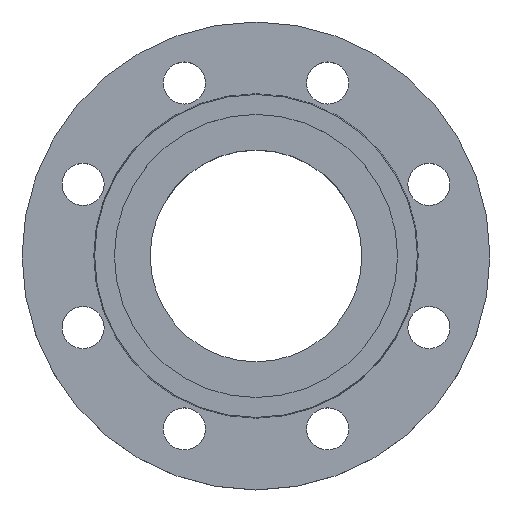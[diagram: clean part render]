
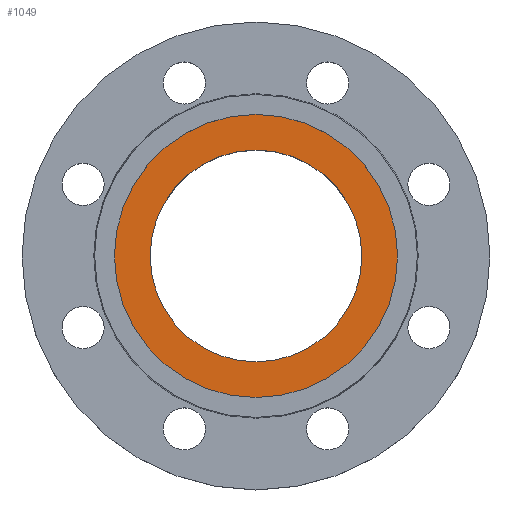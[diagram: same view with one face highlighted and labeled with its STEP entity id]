
A CAD part, top view. The second image highlights one B-rep face of the part: STEP entity #1049.
In plain terms, the highlighted planar face has unit normal (0, 0, 1).
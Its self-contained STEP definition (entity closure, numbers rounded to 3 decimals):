
#10 = AXIS2_PLACEMENT_3D ( 'NONE', #73, #66, #68 ) ;
#20 = EDGE_CURVE ( 'NONE', #922, #921, #1004, .T. ) ;
#29 = CARTESIAN_POINT ( 'NONE',  ( -45.25, 0., -4. ) ) ;
#31 = CARTESIAN_POINT ( 'NONE',  ( 45.25, 0., -4. ) ) ;
#66 = DIRECTION ( 'NONE',  ( 0., 0., 1. ) ) ;
#68 = DIRECTION ( 'NONE',  ( 1., 0., 0. ) ) ;
#71 = FACE_OUTER_BOUND ( 'NONE', #733, .T. ) ;
#72 = PLANE ( 'NONE',  #10 ) ;
#73 = CARTESIAN_POINT ( 'NONE',  ( 60.5, 0., -4. ) ) ;
#74 = FACE_BOUND ( 'NONE', #952, .T. ) ;
#170 = CIRCLE ( 'NONE', #174, 60.5 ) ;
#174 = AXIS2_PLACEMENT_3D ( 'NONE', #443, #442, #441 ) ;
#195 = CIRCLE ( 'NONE', #196, 45.25 ) ;
#196 = AXIS2_PLACEMENT_3D ( 'NONE', #430, #428, #427 ) ;
#388 = CARTESIAN_POINT ( 'NONE',  ( -60.5, 0., -4. ) ) ;
#394 = CARTESIAN_POINT ( 'NONE',  ( 60.5, 0., -4. ) ) ;
#421 = EDGE_CURVE ( 'NONE', #693, #698, #700, .T. ) ;
#427 = DIRECTION ( 'NONE',  ( 1., 0., 0. ) ) ;
#428 = DIRECTION ( 'NONE',  ( 0., 0., 1. ) ) ;
#430 = CARTESIAN_POINT ( 'NONE',  ( 0., 0., -4. ) ) ;
#441 = DIRECTION ( 'NONE',  ( -1., 0., 0. ) ) ;
#442 = DIRECTION ( 'NONE',  ( 0., 0., -1. ) ) ;
#443 = CARTESIAN_POINT ( 'NONE',  ( 0., 0., -4. ) ) ;
#617 = CARTESIAN_POINT ( 'NONE',  ( 0., 0., -4. ) ) ;
#620 = DIRECTION ( 'NONE',  ( 0., 0., -1. ) ) ;
#636 = EDGE_CURVE ( 'NONE', #698, #693, #170, .T. ) ;
#638 = DIRECTION ( 'NONE',  ( -1., 0., 0. ) ) ;
#657 = EDGE_CURVE ( 'NONE', #921, #922, #195, .T. ) ;
#693 = VERTEX_POINT ( 'NONE', #394 ) ;
#698 = VERTEX_POINT ( 'NONE', #388 ) ;
#700 = CIRCLE ( 'NONE', #732, 60.5 ) ;
#732 = AXIS2_PLACEMENT_3D ( 'NONE', #617, #620, #638 ) ;
#733 = EDGE_LOOP ( 'NONE', ( #1087, #1088 ) ) ;
#765 = CARTESIAN_POINT ( 'NONE',  ( 0., 0., -4. ) ) ;
#768 = DIRECTION ( 'NONE',  ( 0., 0., 1. ) ) ;
#769 = DIRECTION ( 'NONE',  ( 1., 0., 0. ) ) ;
#921 = VERTEX_POINT ( 'NONE', #31 ) ;
#922 = VERTEX_POINT ( 'NONE', #29 ) ;
#952 = EDGE_LOOP ( 'NONE', ( #1085, #1086 ) ) ;
#1000 = AXIS2_PLACEMENT_3D ( 'NONE', #765, #768, #769 ) ;
#1004 = CIRCLE ( 'NONE', #1000, 45.25 ) ;
#1049 = ADVANCED_FACE ( 'NONE', ( #74, #71 ), #72, .T. ) ;
#1085 = ORIENTED_EDGE ( 'NONE', *, *, #657, .F. ) ;
#1086 = ORIENTED_EDGE ( 'NONE', *, *, #20, .F. ) ;
#1087 = ORIENTED_EDGE ( 'NONE', *, *, #636, .F. ) ;
#1088 = ORIENTED_EDGE ( 'NONE', *, *, #421, .F. ) ;
